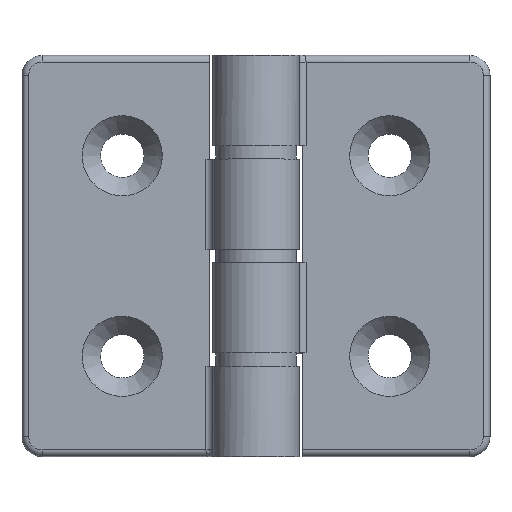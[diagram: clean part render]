
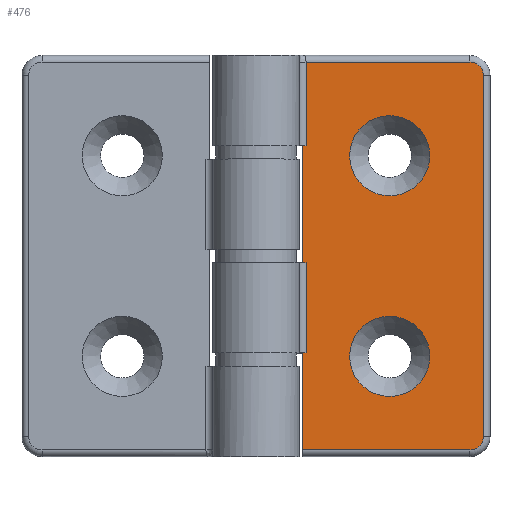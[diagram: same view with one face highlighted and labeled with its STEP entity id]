
A CAD part, top view. The second image highlights one B-rep face of the part: STEP entity #476.
In plain terms, the highlighted planar face has unit normal (0, 0, 1).
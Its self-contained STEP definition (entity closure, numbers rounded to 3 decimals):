
#43=FACE_BOUND('',#176,.T.);
#44=FACE_BOUND('',#177,.T.);
#52=PLANE('',#513);
#64=LINE('',#810,#97);
#68=LINE('',#826,#101);
#69=LINE('',#829,#102);
#70=LINE('',#831,#103);
#71=LINE('',#832,#104);
#72=LINE('',#834,#105);
#73=LINE('',#836,#106);
#74=LINE('',#838,#107);
#75=LINE('',#842,#108);
#76=LINE('',#845,#109);
#97=VECTOR('',#574,12.5);
#101=VECTOR('',#590,13.5);
#102=VECTOR('',#593,0.483);
#103=VECTOR('',#594,17.5);
#104=VECTOR('',#595,0.483);
#105=VECTOR('',#596,0.483);
#106=VECTOR('',#597,14.5);
#107=VECTOR('',#598,25.);
#108=VECTOR('',#601,54.);
#109=VECTOR('',#604,24.517);
#146=FACE_OUTER_BOUND('',#175,.T.);
#175=EDGE_LOOP('',(#362,#363,#364,#365,#366,#367,#368,#369,#370,#371,#372,
#373));
#176=EDGE_LOOP('',(#374));
#177=EDGE_LOOP('',(#375));
#218=CIRCLE('',#514,2.);
#219=CIRCLE('',#515,2.);
#220=CIRCLE('',#516,6.);
#221=CIRCLE('',#517,6.);
#240=VERTEX_POINT('',#762);
#243=VERTEX_POINT('',#807);
#247=VERTEX_POINT('',#819);
#250=VERTEX_POINT('',#824);
#251=VERTEX_POINT('',#828);
#252=VERTEX_POINT('',#830);
#253=VERTEX_POINT('',#833);
#254=VERTEX_POINT('',#835);
#255=VERTEX_POINT('',#837);
#256=VERTEX_POINT('',#839);
#257=VERTEX_POINT('',#841);
#258=VERTEX_POINT('',#843);
#259=VERTEX_POINT('',#846);
#260=VERTEX_POINT('',#848);
#287=EDGE_CURVE('',#243,#240,#64,.T.);
#295=EDGE_CURVE('',#250,#247,#68,.T.);
#296=EDGE_CURVE('',#243,#251,#69,.T.);
#297=EDGE_CURVE('',#251,#252,#70,.T.);
#298=EDGE_CURVE('',#252,#247,#71,.T.);
#299=EDGE_CURVE('',#250,#253,#72,.T.);
#300=EDGE_CURVE('',#253,#254,#73,.T.);
#301=EDGE_CURVE('',#255,#254,#74,.T.);
#302=EDGE_CURVE('',#256,#255,#218,.T.);
#303=EDGE_CURVE('',#257,#256,#75,.T.);
#304=EDGE_CURVE('',#258,#257,#219,.T.);
#305=EDGE_CURVE('',#240,#258,#76,.T.);
#306=EDGE_CURVE('',#259,#259,#220,.T.);
#307=EDGE_CURVE('',#260,#260,#221,.T.);
#362=ORIENTED_EDGE('',*,*,#296,.T.);
#363=ORIENTED_EDGE('',*,*,#297,.T.);
#364=ORIENTED_EDGE('',*,*,#298,.T.);
#365=ORIENTED_EDGE('',*,*,#295,.F.);
#366=ORIENTED_EDGE('',*,*,#299,.T.);
#367=ORIENTED_EDGE('',*,*,#300,.T.);
#368=ORIENTED_EDGE('',*,*,#301,.F.);
#369=ORIENTED_EDGE('',*,*,#302,.F.);
#370=ORIENTED_EDGE('',*,*,#303,.F.);
#371=ORIENTED_EDGE('',*,*,#304,.F.);
#372=ORIENTED_EDGE('',*,*,#305,.F.);
#373=ORIENTED_EDGE('',*,*,#287,.F.);
#374=ORIENTED_EDGE('',*,*,#306,.T.);
#375=ORIENTED_EDGE('',*,*,#307,.T.);
#476=ADVANCED_FACE('',(#146,#43,#44),#52,.T.);
#513=AXIS2_PLACEMENT_3D('',#827,#591,#592);
#514=AXIS2_PLACEMENT_3D('',#840,#599,#600);
#515=AXIS2_PLACEMENT_3D('',#844,#602,#603);
#516=AXIS2_PLACEMENT_3D('',#847,#605,#606);
#517=AXIS2_PLACEMENT_3D('',#849,#607,#608);
#574=DIRECTION('',(0.,1.,0.));
#590=DIRECTION('',(0.,1.,0.));
#591=DIRECTION('center_axis',(0.,0.,1.));
#592=DIRECTION('ref_axis',(1.,0.,0.));
#593=DIRECTION('',(-1.,0.,0.));
#594=DIRECTION('',(0.,-1.,0.));
#595=DIRECTION('',(1.,0.,0.));
#596=DIRECTION('',(-1.,0.,0.));
#597=DIRECTION('',(0.,-1.,0.));
#598=DIRECTION('',(-1.,0.,0.));
#599=DIRECTION('center_axis',(0.,0.,-1.));
#600=DIRECTION('ref_axis',(0.707,-0.707,0.));
#601=DIRECTION('',(0.,-1.,0.));
#602=DIRECTION('center_axis',(0.,0.,-1.));
#603=DIRECTION('ref_axis',(0.707,0.707,0.));
#604=DIRECTION('',(1.,0.,0.));
#605=DIRECTION('center_axis',(0.,0.,-1.));
#606=DIRECTION('ref_axis',(1.,0.,0.));
#607=DIRECTION('center_axis',(0.,0.,-1.));
#608=DIRECTION('ref_axis',(1.,0.,0.));
#762=CARTESIAN_POINT('',(7.483,59.,5.));
#807=CARTESIAN_POINT('',(7.483,46.5,5.));
#810=CARTESIAN_POINT('',(7.483,0.,5.));
#819=CARTESIAN_POINT('',(7.483,29.,5.));
#824=CARTESIAN_POINT('',(7.483,15.5,5.));
#826=CARTESIAN_POINT('',(7.483,0.,5.));
#827=CARTESIAN_POINT('Origin',(16.638,0.,5.));
#828=CARTESIAN_POINT('',(7.,46.5,5.));
#829=CARTESIAN_POINT('',(5.069,46.5,5.));
#830=CARTESIAN_POINT('',(7.,29.,5.));
#831=CARTESIAN_POINT('',(7.,23.25,5.));
#832=CARTESIAN_POINT('',(11.819,29.,5.));
#833=CARTESIAN_POINT('',(7.,15.5,5.));
#834=CARTESIAN_POINT('',(5.069,15.5,5.));
#835=CARTESIAN_POINT('',(7.,1.,5.));
#836=CARTESIAN_POINT('',(7.,7.75,5.));
#837=CARTESIAN_POINT('',(32.,1.,5.));
#838=CARTESIAN_POINT('',(15.624,1.,5.));
#839=CARTESIAN_POINT('',(34.,3.,5.));
#840=CARTESIAN_POINT('Origin',(32.,3.,5.));
#841=CARTESIAN_POINT('',(34.,57.,5.));
#842=CARTESIAN_POINT('',(34.,0.,5.));
#843=CARTESIAN_POINT('',(32.,59.,5.));
#844=CARTESIAN_POINT('Origin',(32.,57.,5.));
#845=CARTESIAN_POINT('',(15.624,59.,5.));
#846=CARTESIAN_POINT('',(26.,45.,5.));
#847=CARTESIAN_POINT('Origin',(20.,45.,5.));
#848=CARTESIAN_POINT('',(26.,15.,5.));
#849=CARTESIAN_POINT('Origin',(20.,15.,5.));
